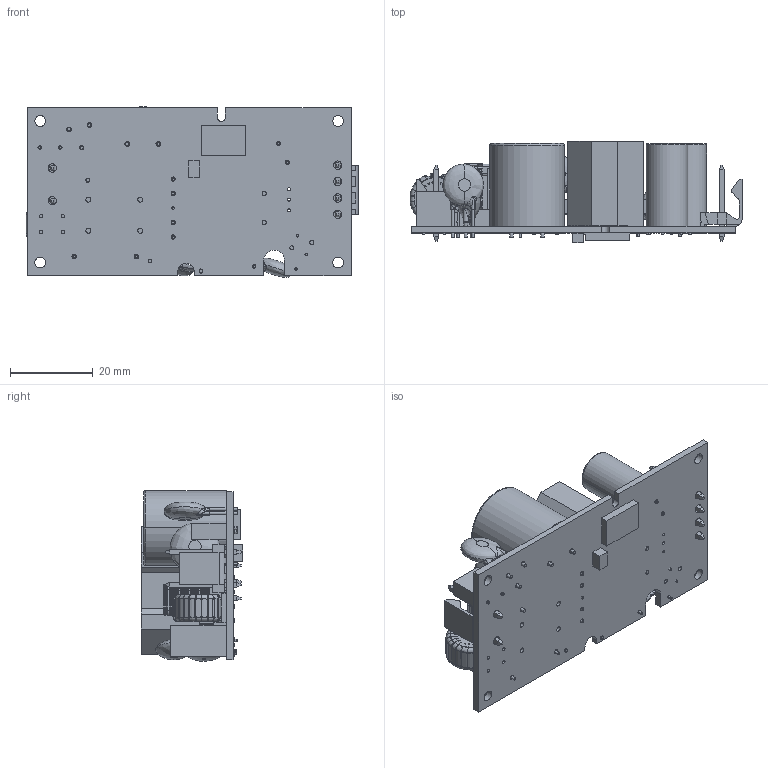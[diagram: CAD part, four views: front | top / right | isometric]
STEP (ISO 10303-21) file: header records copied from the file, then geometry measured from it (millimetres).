
FILE_DESCRIPTION (( 'STEP AP214' ), '1' );
FILE_NAME ('RACM40-K_OF_3D_20200415.stp', '2020-04-28T07:39:18', ( '' ), ( '' ), 'SwSTEP 2.0', 'SolidWorks 2019', '' );
FILE_SCHEMA (( 'AUTOMOTIVE_DESIGN' ));
Length unit declared in the file: millimetre
Products named in the file (2): RACM40-K_OF_20200428; RACM40-K_OF_3D_20200415
Assembly tree (1 placements, depth 2):
  RACM40-K_OF_3D_20200415
    RACM40-K_OF_20200428
Bounding box: 80.16 x 24.6 x 41.19 mm (x, y, z)
Volume: 29196.3 mm3; surface area: 21028.3 mm2
Topology: 65 solids, 65 shells, 1692 faces, 4453 edges, 2840 vertices
Faces by surface type: cylinder 598, plane 579, torus 428, bspline 81, cone 6
Entity records: 81180 total; most frequent: CARTESIAN_POINT 18490, DIRECTION 9716, ORIENTED_EDGE 8902, EDGE_CURVE 4451, AXIS2_PLACEMENT_3D 3858, VERTEX_POINT 2840, CIRCLE 2243, LINE 2000
